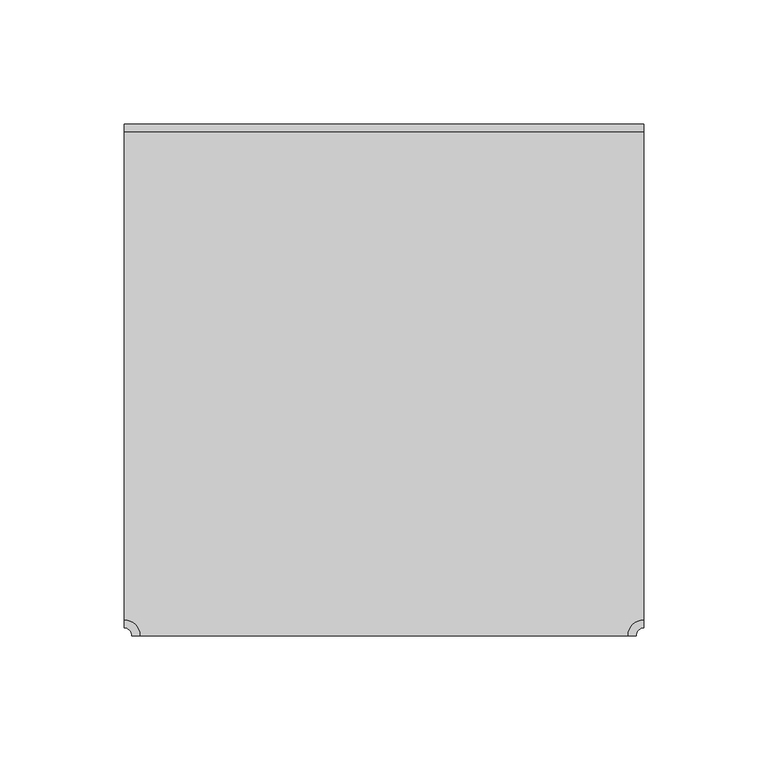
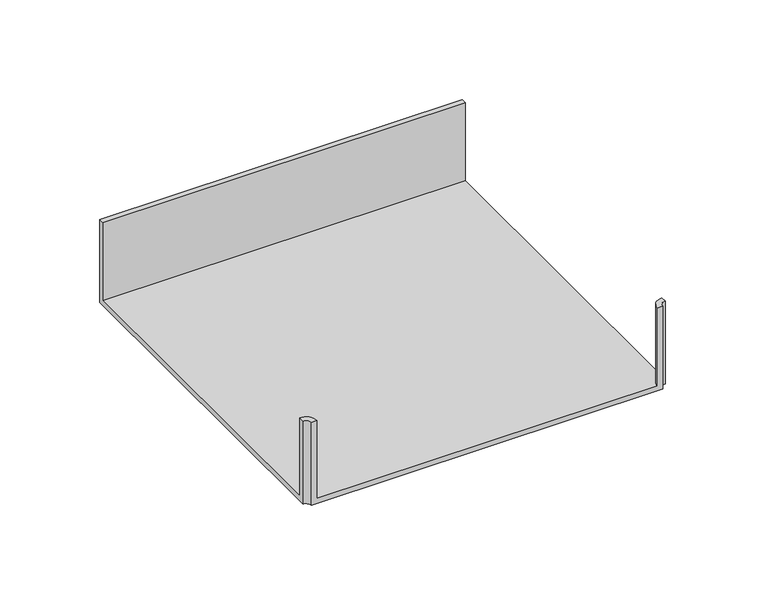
"""IFC4 building model written with IfcOpenShell, lengths in millimetres: cable carrier fitting geometry, Tee-Cablofil-Wire_Mesh_Cable_Tray : EZ T 90 KIT."""

from ifc_helpers import new_model, si_unit, frame, origin, place, context, project, spatial, polyline, circle_curve, source, transform, mapped, element, save
from ifc_brep_helpers import plane_surface, cylinder_surface, revolved_surface, advanced_brep


def cable_carrier_fitting_e2da64ca(model_context):
    return source(origin(), model_context, "Body", "AdvancedBrep", [
        advanced_brep(
        [(-101.6, -104.775, 25.4), (-98.425, -104.775, 25.4), (-104.775, -98.425, 25.4), (-104.775, -101.6, 25.4), (101.6, -104.775, 25.4), (104.775, -101.6, 25.4), (104.775, -98.425, 25.4), (98.425, -104.775, 25.4), (104.775, 101.6, 25.4), (-104.775, 101.6, 25.4), (-104.775, 98.425, 25.4), (104.775, 98.425, 25.4), (-101.6, -104.775, -25.4), (-104.775, -101.6, -25.4), (-104.775, 101.6, -25.4), (104.775, 101.6, -25.4), (104.775, -101.6, -25.4), (101.6, -104.775, -25.4), (98.425, -104.775, -22.225), (-98.425, -104.775, -22.225), (-104.775, -98.425, -22.225), (-104.775, 98.425, -22.225), (104.775, 98.425, -22.225), (104.775, -98.425, -22.225)],
        [
            (0, 1),
            (1, 2, circle_curve(frame((-104.775, -104.775, 25.4), z_axis=(0.0, 0.0, 1.0), x_axis=(1.0, 0.0, 0.0)), 6.35)),
            (2, 3),
            (3, 0, circle_curve(frame((-104.775, -104.775, 25.4), z_axis=(0.0, 0.0, -1.0), x_axis=(1.0, 0.0, 0.0)), 3.175)),
            (4, 5, circle_curve(frame((104.775, -104.775, 25.4), z_axis=(0.0, 0.0, -1.0), x_axis=(1.0, 0.0, 0.0)), 3.175)),
            (5, 6),
            (6, 7, circle_curve(frame((104.775, -104.775, 25.4), z_axis=(0.0, 0.0, 1.0), x_axis=(1.0, 0.0, 0.0)), 6.35)),
            (7, 4),
            (8, 9),
            (9, 10),
            (10, 11),
            (11, 8),
            (12, 13, circle_curve(frame((-104.775, -104.775, -25.4), z_axis=(0.0, 0.0, 1.0), x_axis=(1.0, 0.0, 0.0)), 3.175)),
            (13, 14),
            (14, 15),
            (15, 16),
            (16, 17, circle_curve(frame((104.775, -104.775, -25.4), z_axis=(0.0, 0.0, 1.0), x_axis=(1.0, 0.0, 0.0)), 3.175)),
            (17, 12),
            (0, 12),
            (17, 4),
            (7, 18),
            (18, 19),
            (19, 1),
            (19, 20, circle_curve(frame((-104.775, -104.775, -22.225), z_axis=(0.0, 0.0, 1.0), x_axis=(1.0, 0.0, 0.0)), 6.35)),
            (20, 2),
            (20, 21),
            (21, 10),
            (9, 14),
            (13, 3),
            (16, 5),
            (15, 8),
            (11, 22),
            (22, 23),
            (23, 6),
            (23, 18, circle_curve(frame((104.775, -104.775, -22.225), z_axis=(0.0, 0.0, 1.0), x_axis=(1.0, 0.0, 0.0)), 6.35)),
            (21, 22),
        ],
        [
            plane_surface(frame((-101.6, -104.775, 25.4), z_axis=(0.0, 0.0, 1.0), x_axis=(1.0, 0.0, 0.0))),
            plane_surface(frame((-101.6, -104.775, -25.4), z_axis=(0.0, 0.0, -1.0), x_axis=(-1.0, 0.0, 0.0))),
            plane_surface(frame((-101.6, -104.775, 25.4), z_axis=(0.0, -1.0, 0.0), x_axis=(0.0, 0.0, -1.0))),
            cylinder_surface(frame((-104.775, -104.775, -25.4), z_axis=(0.0, 0.0, 1.0), x_axis=(1.0, 0.0, 0.0)), 6.35),
            plane_surface(frame((-104.775, -98.425, 25.4), z_axis=(-1.0, 0.0, 0.0), x_axis=(0.0, 0.0, -1.0))),
            revolved_surface(polyline([(-101.60000000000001, -104.775, -25.4), (-101.60000000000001, -104.775, 25.4)]), (-104.775, -104.775, -25.4), (0.0, 0.0, -1.0)),
            revolved_surface(polyline([(107.95, -104.775, -25.4), (107.95, -104.775, 25.4)]), (104.775, -104.775, 0.0), (0.0, 0.0, -1.0)),
            plane_surface(frame((104.775, -101.6, 25.4), z_axis=(1.0, 0.0, 0.0), x_axis=(0.0, 0.0, -1.0))),
            cylinder_surface(frame((104.775, -104.775, 0.0), z_axis=(0.0, 0.0, 1.0), x_axis=(1.0, 0.0, 0.0)), 6.35),
            plane_surface(frame((104.775, 101.6, 25.4), z_axis=(0.0, 1.0, 0.0), x_axis=(0.0, 0.0, -1.0))),
            plane_surface(frame((-104.775, 98.425, 25.4), z_axis=(0.0, -1.0, 0.0), x_axis=(0.0, 0.0, -1.0))),
            plane_surface(frame((-101.6, -104.775, -22.225), z_axis=(0.0, 0.0, 1.0), x_axis=(1.0, 0.0, 0.0))),
        ],
        [
            (0, [[1, 2, 3, 4]]),
            (0, [[5, 6, 7, 8]]),
            (0, [[9, 10, 11, 12]]),
            (1, [[13, 14, 15, 16, 17, 18]]),
            (2, [[-1, 19, -18, 20, -8, 21, 22, 23]]),
            (3, [[-2, -23, 24, 25]]),
            (4, [[-3, -25, 26, 27, -10, 28, -14, 29]]),
            (5, [[-19, -4, -29, -13]]),
            (6, [[30, -5, -20, -17]]),
            (7, [[-6, -30, -16, 31, -12, 32, 33, 34]]),
            (8, [[-7, -34, 35, -21]]),
            (9, [[-28, -9, -31, -15]]),
            (10, [[-11, -27, 36, -32]]),
            (11, [[-22, -35, -33, -36, -26, -24]]),
        ],
    ),
    ])


if __name__ == "__main__":
    model = new_model("IFC4")
    model_context = context("Model", 3, world=origin())
    ifc_project = project(units=[si_unit("LENGTHUNIT", "METRE", prefix="MILLI")], contexts=[model_context])
    site = spatial("IfcSite", under=ifc_project)
    building = spatial("IfcBuilding", under=site)
    placement = place(None, origin())
    cable_carrier_fitting_shape = cable_carrier_fitting_e2da64ca(model_context)
    element("IfcCableCarrierFitting", 1, ObjectType="Tee-Cablofil-Wire_Mesh_Cable_Tray : EZ T 90 KIT", at=placement, inside=building, context=model_context, shape_type="MappedRepresentation", body=[
        mapped(cable_carrier_fitting_shape, transform((0.0, 0.0, 0.0), x_axis=(1.0, 0.0, 0.0), y_axis=(0.0, 1.0, 0.0), z_axis=(0.0, 0.0, 1.0))),
    ])
    save(model, "model.ifc")
